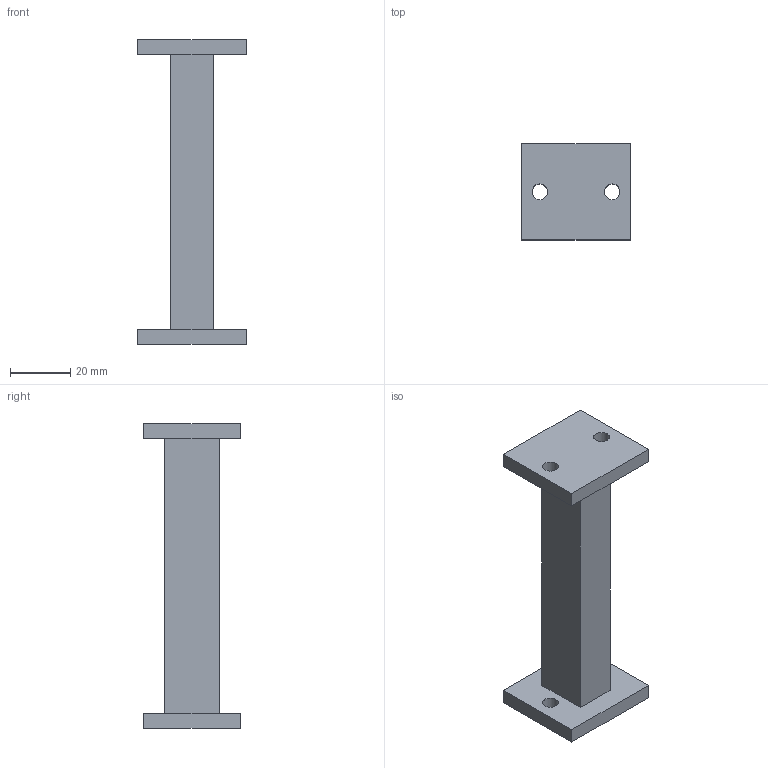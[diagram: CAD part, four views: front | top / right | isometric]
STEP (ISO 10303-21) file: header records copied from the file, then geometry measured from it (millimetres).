
FILE_DESCRIPTION(('Open CASCADE Model'),'2;1');
FILE_NAME('Open CASCADE Shape Model','2026-09-04T19:26:43',('Author'),( 'Open CASCADE'),'Open CASCADE STEP processor 7.9','Open CASCADE 7.9' ,'Unknown');
FILE_SCHEMA(('AUTOMOTIVE_DESIGN { 1 0 10303 214 1 1 1 1 }'));
Length unit declared in the file: millimetre
Products named in the file (1): COMPOUND
Bounding box: 36 x 32 x 101 mm (x, y, z)
Volume: 34027.3 mm3; surface area: 11444.8 mm2
Topology: 1 solids, 1 shells, 20 faces, 48 edges, 32 vertices
Faces by surface type: plane 16, cylinder 4
Full cylindrical faces by diameter (mm): 5.2 x4
Entity records: 1246 total; most frequent: CARTESIAN_POINT 197, DIRECTION 194, LINE 128, VECTOR 128, ORIENTED_EDGE 96, PCURVE 96, DEFINITIONAL_REPRESENTATION 96, EDGE_CURVE 48
